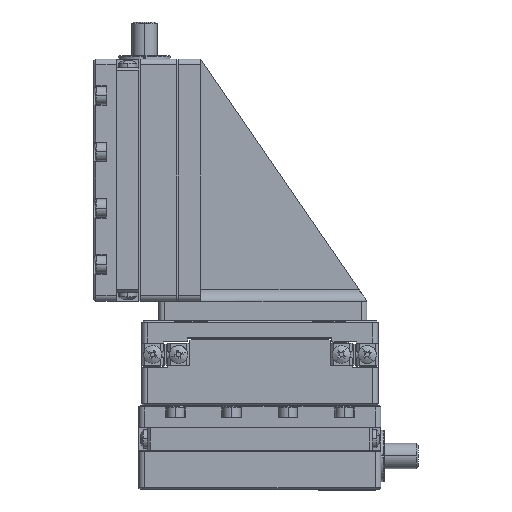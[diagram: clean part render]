
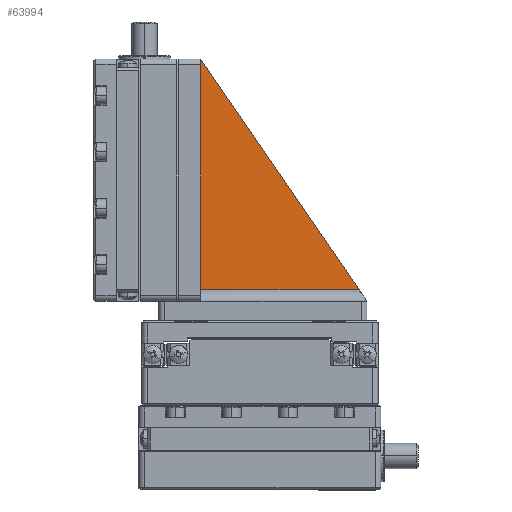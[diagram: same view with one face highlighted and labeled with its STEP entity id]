
A CAD part, top view. The second image highlights one B-rep face of the part: STEP entity #63994.
In plain terms, the highlighted planar face has unit normal (0, 0, 1).
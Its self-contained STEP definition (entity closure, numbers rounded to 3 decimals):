
#1108 = LINE ( 'NONE', #87853, #63299 ) ;
#9226 = CARTESIAN_POINT ( 'NONE',  ( -17.653, 55.739, 2.5 ) ) ;
#20385 = DIRECTION ( 'NONE',  ( 0.566, -0.825, 0. ) ) ;
#27838 = ORIENTED_EDGE ( 'NONE', *, *, #152808, .T. ) ;
#34396 = PLANE ( 'NONE',  #71646 ) ;
#46115 = CARTESIAN_POINT ( 'NONE',  ( 11.847, 14.739, 2.5 ) ) ;
#47159 = ORIENTED_EDGE ( 'NONE', *, *, #129013, .F. ) ;
#47249 = DIRECTION ( 'NONE',  ( -1., 0., 0. ) ) ;
#48000 = ORIENTED_EDGE ( 'NONE', *, *, #141433, .F. ) ;
#48669 = CARTESIAN_POINT ( 'NONE',  ( 10.475, 14.739, 2.5 ) ) ;
#63299 = VECTOR ( 'NONE', #103389, 1000. ) ;
#63994 = ADVANCED_FACE ( 'NONE', ( #135387 ), #34396, .F. ) ;
#64267 = CARTESIAN_POINT ( 'NONE',  ( -17.653, 14.739, 2.5 ) ) ;
#71646 = AXIS2_PLACEMENT_3D ( 'NONE', #73590, #86420, #47249 ) ;
#73590 = CARTESIAN_POINT ( 'NONE',  ( -6.653, 9.239, 2.5 ) ) ;
#84749 = DIRECTION ( 'NONE',  ( 1., 0., 0. ) ) ;
#86420 = DIRECTION ( 'NONE',  ( 0., 0., -1. ) ) ;
#87853 = CARTESIAN_POINT ( 'NONE',  ( -17.653, 55.739, 2.5 ) ) ;
#92080 = EDGE_LOOP ( 'NONE', ( #48000, #27838, #47159 ) ) ;
#95565 = VECTOR ( 'NONE', #84749, 1000. ) ;
#102117 = VERTEX_POINT ( 'NONE', #9226 ) ;
#103389 = DIRECTION ( 'NONE',  ( 0., 1., 0. ) ) ;
#103953 = VERTEX_POINT ( 'NONE', #64267 ) ;
#112111 = LINE ( 'NONE', #123289, #140127 ) ;
#114370 = VERTEX_POINT ( 'NONE', #48669 ) ;
#123289 = CARTESIAN_POINT ( 'NONE',  ( 11.847, 12.739, 2.5 ) ) ;
#129013 = EDGE_CURVE ( 'NONE', #102117, #114370, #112111, .T. ) ;
#129689 = LINE ( 'NONE', #46115, #95565 ) ;
#135387 = FACE_OUTER_BOUND ( 'NONE', #92080, .T. ) ;
#140127 = VECTOR ( 'NONE', #20385, 1000. ) ;
#141433 = EDGE_CURVE ( 'NONE', #103953, #102117, #1108, .T. ) ;
#152808 = EDGE_CURVE ( 'NONE', #103953, #114370, #129689, .T. ) ;
